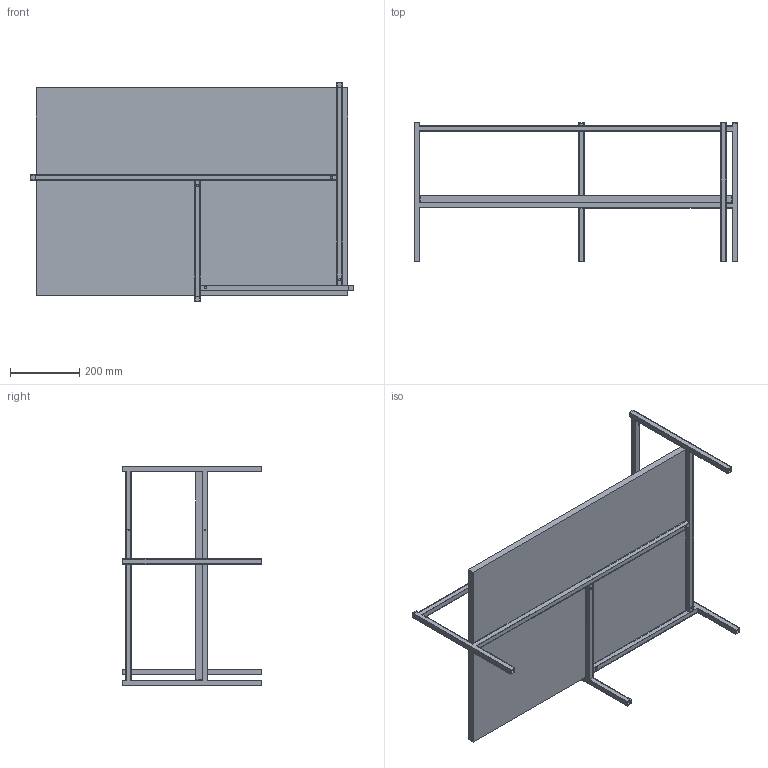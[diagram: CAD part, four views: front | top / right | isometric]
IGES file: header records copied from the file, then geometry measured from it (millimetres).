
Start section: SolidWorks IGES file using analytic representation for surfaces
Global section: file name: C:\Users\hcaixa\Documents\Gabinete Tecnico\72_produtos cliente\Timsteel\Estantes\Estantes  Q16\Q16 versão catalogo\Assemblys\IGS\Novas Peças\Coffee Table 900x600.IGS; native system: SolidWorks 2014; preprocessor: SolidWorks 2014; author: hcaixa; date: 190704.141508; units: millimetre
Bounding box: 934 x 402 x 633 mm (x, y, z)
Surface area: 2090544.4 mm2 (no closed solid volume)
Topology: 0 solids, 0 shells, 188 faces, 2224 edges, 2224 vertices
Faces by surface type: bspline 128, revolution 60
